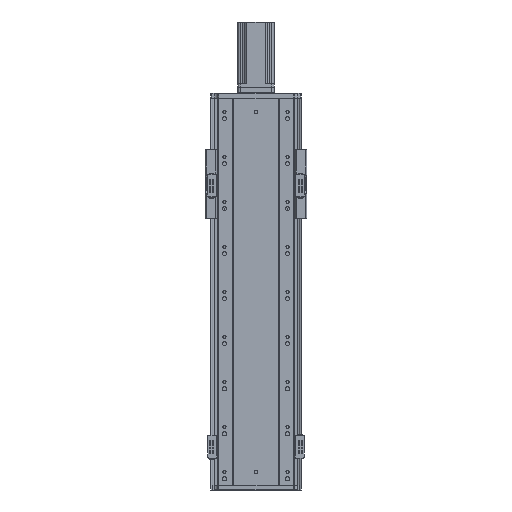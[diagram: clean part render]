
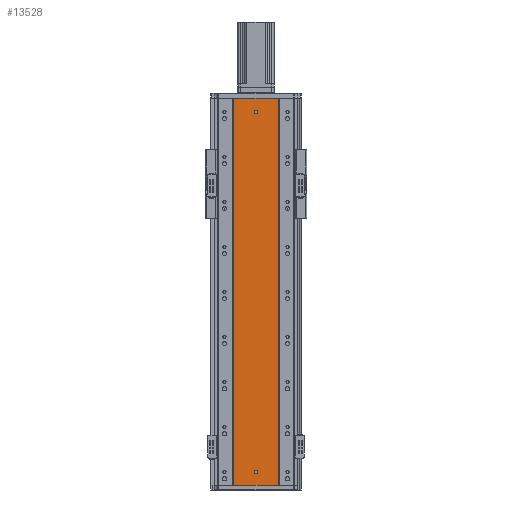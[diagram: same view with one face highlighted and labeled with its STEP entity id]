
A CAD part, front view. The second image highlights one B-rep face of the part: STEP entity #13528.
In plain terms, the highlighted planar face has unit normal (0, -1, 0).
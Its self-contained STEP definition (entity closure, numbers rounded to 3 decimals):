
#1504 = EDGE_CURVE ( 'NONE', #9737, #9783, #24392, .T. ) ;
#1536 = EDGE_CURVE ( 'NONE', #40072, #40071, #24412, .T. ) ;
#1560 = EDGE_CURVE ( 'NONE', #40011, #40088, #24427, .T. ) ;
#1598 = EDGE_CURVE ( 'NONE', #9681, #9679, #24450, .T. ) ;
#1611 = EDGE_CURVE ( 'NONE', #40088, #40071, #10497, .T. ) ;
#1618 = EDGE_CURVE ( 'NONE', #40011, #40072, #10493, .T. ) ;
#5776 = CARTESIAN_POINT ( 'NONE',  ( 86.97, 79.476, 860. ) ) ;
#5834 = CARTESIAN_POINT ( 'NONE',  ( 185.97, 79.476, 0. ) ) ;
#5836 = CARTESIAN_POINT ( 'NONE',  ( 86.97, 79.476, 0. ) ) ;
#5889 = CARTESIAN_POINT ( 'NONE',  ( 185.97, 79.476, 860. ) ) ;
#7068 = DIRECTION ( 'NONE',  ( 0., 0., 1. ) ) ;
#7070 = PLANE ( 'NONE',  #22765 ) ;
#7086 = CARTESIAN_POINT ( 'NONE',  ( 0., 79.476, 860. ) ) ;
#7093 = DIRECTION ( 'NONE',  ( 0., 1., 0. ) ) ;
#8549 = FACE_BOUND ( 'NONE', #19241, .T. ) ;
#8568 = FACE_OUTER_BOUND ( 'NONE', #19163, .T. ) ;
#8585 = FACE_BOUND ( 'NONE', #19312, .T. ) ;
#9679 = VERTEX_POINT ( 'NONE', #17893 ) ;
#9681 = VERTEX_POINT ( 'NONE', #17898 ) ;
#9737 = VERTEX_POINT ( 'NONE', #17935 ) ;
#9783 = VERTEX_POINT ( 'NONE', #17927 ) ;
#10493 = B_SPLINE_CURVE_WITH_KNOTS ( 'NONE', 3,
 ( #17656, #17637, #17649, #17638 ),
 .UNSPECIFIED., .F., .F.,
 ( 4, 4 ),
 ( 0., 1. ),
 .UNSPECIFIED. ) ;
#10497 = B_SPLINE_CURVE_WITH_KNOTS ( 'NONE', 3,
 ( #17647, #17650, #17642, #17636 ),
 .UNSPECIFIED., .F., .F.,
 ( 4, 4 ),
 ( 0., 1. ),
 .UNSPECIFIED. ) ;
#12830 = EDGE_CURVE ( 'NONE', #9679, #9681, #28425, .T. ) ;
#12859 = EDGE_CURVE ( 'NONE', #9783, #9737, #28442, .T. ) ;
#13528 = ADVANCED_FACE ( 'NONE', ( #8549, #8585, #8568 ), #7070, .F. ) ;
#17507 = DIRECTION ( 'NONE',  ( 0., -1., 0. ) ) ;
#17520 = DIRECTION ( 'NONE',  ( 0., 0., -1. ) ) ;
#17524 = CARTESIAN_POINT ( 'NONE',  ( 136.47, 79.476, 30. ) ) ;
#17542 = CARTESIAN_POINT ( 'NONE',  ( 0., 79.476, 0. ) ) ;
#17558 = DIRECTION ( 'NONE',  ( 1., 0., 0. ) ) ;
#17563 = CARTESIAN_POINT ( 'NONE',  ( 0., 79.476, 860. ) ) ;
#17577 = DIRECTION ( 'NONE',  ( 1., 0., 0. ) ) ;
#17591 = CARTESIAN_POINT ( 'NONE',  ( 136.47, 79.476, 830. ) ) ;
#17597 = DIRECTION ( 'NONE',  ( 0., 0., -1. ) ) ;
#17619 = DIRECTION ( 'NONE',  ( 0., -1., 0. ) ) ;
#17636 = CARTESIAN_POINT ( 'NONE',  ( 185.97, 79.476, 0. ) ) ;
#17637 = CARTESIAN_POINT ( 'NONE',  ( 86.97, 79.476, 573.333 ) ) ;
#17638 = CARTESIAN_POINT ( 'NONE',  ( 86.97, 79.476, 0. ) ) ;
#17642 = CARTESIAN_POINT ( 'NONE',  ( 185.97, 79.476, 286.667 ) ) ;
#17647 = CARTESIAN_POINT ( 'NONE',  ( 185.97, 79.476, 860. ) ) ;
#17649 = CARTESIAN_POINT ( 'NONE',  ( 86.97, 79.476, 286.667 ) ) ;
#17650 = CARTESIAN_POINT ( 'NONE',  ( 185.97, 79.476, 573.333 ) ) ;
#17656 = CARTESIAN_POINT ( 'NONE',  ( 86.97, 79.476, 860. ) ) ;
#17893 = CARTESIAN_POINT ( 'NONE',  ( 136.47, 79.476, 834. ) ) ;
#17898 = CARTESIAN_POINT ( 'NONE',  ( 136.47, 79.476, 826. ) ) ;
#17927 = CARTESIAN_POINT ( 'NONE',  ( 136.47, 79.476, 34. ) ) ;
#17935 = CARTESIAN_POINT ( 'NONE',  ( 136.47, 79.476, 26. ) ) ;
#19163 = EDGE_LOOP ( 'NONE', ( #40925, #40944, #40998, #40924 ) ) ;
#19241 = EDGE_LOOP ( 'NONE', ( #40992, #40937 ) ) ;
#19312 = EDGE_LOOP ( 'NONE', ( #40883, #40942 ) ) ;
#20186 = CARTESIAN_POINT ( 'NONE',  ( 136.47, 79.476, 830. ) ) ;
#20188 = DIRECTION ( 'NONE',  ( 0., -1., 0. ) ) ;
#20202 = DIRECTION ( 'NONE',  ( 0., 0., -1. ) ) ;
#20327 = CARTESIAN_POINT ( 'NONE',  ( 136.47, 79.476, 30. ) ) ;
#20329 = DIRECTION ( 'NONE',  ( 0., -1., 0. ) ) ;
#20330 = DIRECTION ( 'NONE',  ( 0., 0., -1. ) ) ;
#22765 = AXIS2_PLACEMENT_3D ( 'NONE', #7086, #7093, #7068 ) ;
#24392 = CIRCLE ( 'NONE', #26612, 4. ) ;
#24412 = LINE ( 'NONE', #17542, #24413 ) ;
#24413 = VECTOR ( 'NONE', #17558, 1000. ) ;
#24427 = LINE ( 'NONE', #17563, #24514 ) ;
#24450 = CIRCLE ( 'NONE', #26620, 4. ) ;
#24514 = VECTOR ( 'NONE', #17577, 1000. ) ;
#26612 = AXIS2_PLACEMENT_3D ( 'NONE', #17524, #17507, #17520 ) ;
#26620 = AXIS2_PLACEMENT_3D ( 'NONE', #17591, #17619, #17597 ) ;
#28425 = CIRCLE ( 'NONE', #37941, 4. ) ;
#28442 = CIRCLE ( 'NONE', #37914, 4. ) ;
#37914 = AXIS2_PLACEMENT_3D ( 'NONE', #20327, #20329, #20330 ) ;
#37941 = AXIS2_PLACEMENT_3D ( 'NONE', #20186, #20188, #20202 ) ;
#40011 = VERTEX_POINT ( 'NONE', #5776 ) ;
#40071 = VERTEX_POINT ( 'NONE', #5834 ) ;
#40072 = VERTEX_POINT ( 'NONE', #5836 ) ;
#40088 = VERTEX_POINT ( 'NONE', #5889 ) ;
#40883 = ORIENTED_EDGE ( 'NONE', *, *, #1504, .F. ) ;
#40924 = ORIENTED_EDGE ( 'NONE', *, *, #1618, .T. ) ;
#40925 = ORIENTED_EDGE ( 'NONE', *, *, #1536, .T. ) ;
#40937 = ORIENTED_EDGE ( 'NONE', *, *, #12830, .F. ) ;
#40942 = ORIENTED_EDGE ( 'NONE', *, *, #12859, .F. ) ;
#40944 = ORIENTED_EDGE ( 'NONE', *, *, #1611, .F. ) ;
#40992 = ORIENTED_EDGE ( 'NONE', *, *, #1598, .F. ) ;
#40998 = ORIENTED_EDGE ( 'NONE', *, *, #1560, .F. ) ;
